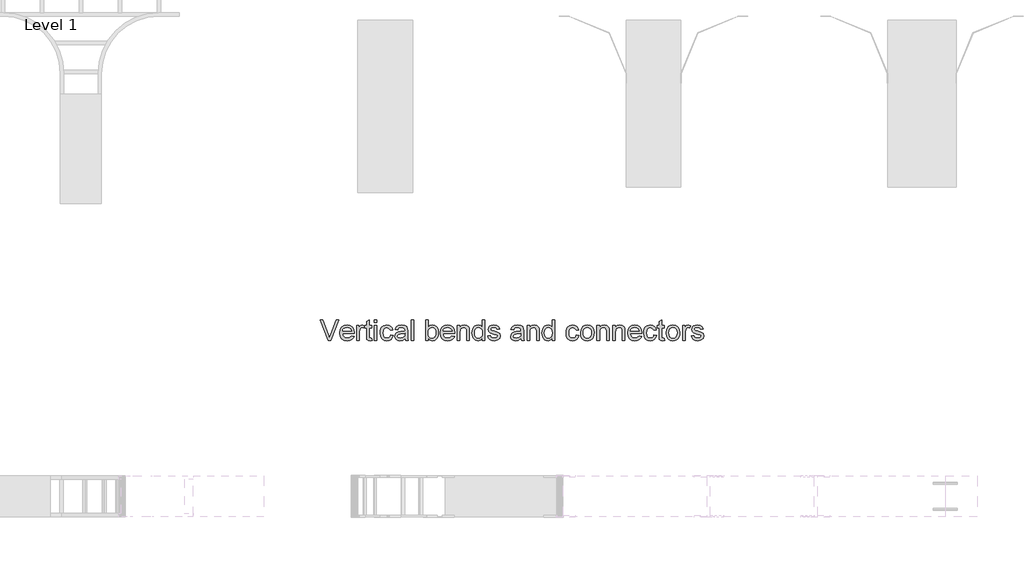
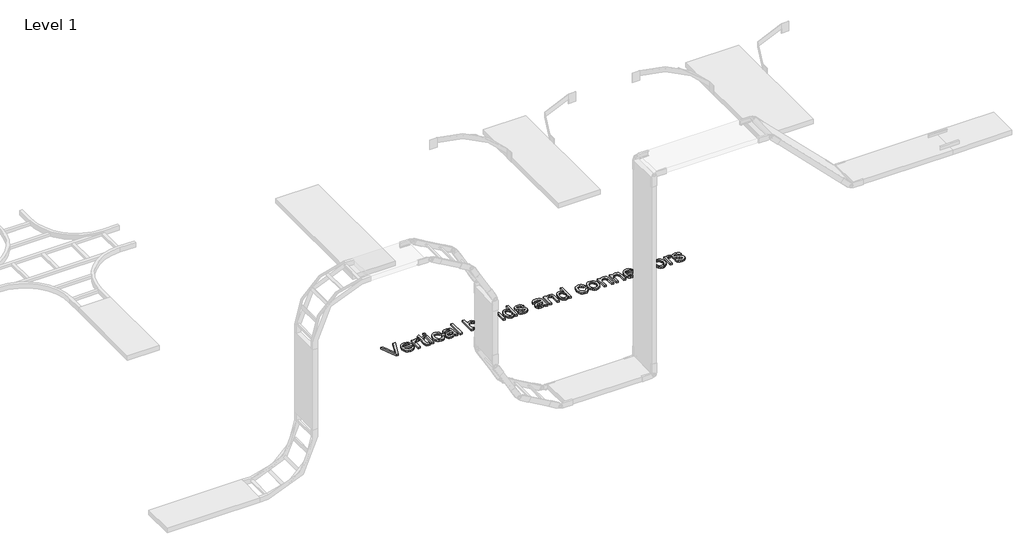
# One storey, part 46 of 106: 1 proxy.
"""IFC4 building model written with IfcOpenShell, lengths in millimetres."""

from ifc_helpers import new_model, si_unit, origin, origin_with_axes, place, context, project, spatial, polyline, outline, extrude, element, save

model = new_model("IFC4")

# Units and contexts
model_context = context("Model", 3, world=origin())
ifc_project = project(units=[si_unit("LENGTHUNIT", "METRE", prefix="MILLI")], contexts=[model_context])

# Site, building, storey
site = spatial("IfcSite", under=ifc_project)
building = spatial("IfcBuilding", under=site)
storey = spatial("IfcBuildingStorey", under=building, Name="Level 1", Elevation=0.0)

# Proxy
placement = place(None, origin())
element("IfcBuildingElementProxy", 1, Name="150mm Arial 2", ObjectType="150mm Arial 2", at=placement, inside=storey, context=model_context, shape_type="SweptSolid", body=[
    extrude(outline(polyline([(54472.9663468, 25747.8476348), (54413.0015816, 25898.5321), (54433.1615149, 25898.5321), (54473.2974406, 25789.9701232), (54481.4276327, 25765.5059705), (54489.4474602, 25789.9701232), (54529.6937505, 25898.5321), (54549.8536838, 25898.5321), (54492.4273044, 25747.8476348), (54472.9663468, 25747.8476348)])), origin_with_axes(), (0.0, 0.0, 1.0), 15.0),
    extrude(outline(polyline([(54642.4863702, 25780.8098615), (54660.9540463, 25778.4554168), (54654.2999808, 25764.5402803), (54643.6819867, 25754.1384169), (54629.3391874, 25747.6544967), (54611.5107062, 25745.49319), (54589.4101953, 25749.2225937), (54572.4048501, 25760.4108049), (54561.5615283, 25778.3312566), (54557.9470877, 25802.2573819), (54561.5983165, 25826.988249), (54572.5520029, 25845.4835163), (54589.3274219, 25857.0166168), (54610.4438484, 25860.8609837), (54630.9026859, 25857.0258139), (54647.250442, 25845.5203045), (54657.9696037, 25827.0618254), (54661.5426575, 25802.3677465), (54661.4322929, 25797.2909749), (54576.7826459, 25797.2909749), (54580.043, 25783.1918975), (54587.6167706, 25772.8268223), (54598.5474644, 25766.4532667), (54611.8785882, 25764.3287482), (54630.3462644, 25768.2650855), (54642.4863702, 25780.8098615)]), holes=[polyline([(54576.7826459, 25816.1265331), (54642.7070994, 25816.1265331), (54640.1595166, 25826.0777411), (54635.1655185, 25833.1962577), (54624.1842409, 25839.8181336), (54610.370272, 25842.0254255), (54597.6737447, 25840.2641905), (54587.1753122, 25834.9804853), (54579.8774531, 25826.7445272), (54576.7826459, 25816.1265331)])]), origin_with_axes(), (0.0, 0.0, 1.0), 15.0),
    extrude(outline(polyline([(54791.0371198, 25763.556196), (54793.3915646, 25747.2958118), (54779.3016842, 25745.49319), (54763.5195466, 25748.620187), (54755.6468719, 25756.8239555), (54753.3660035, 25778.1978994), (54753.3660035, 25839.6709808), (54739.2393349, 25839.6709808), (54739.2393349, 25855.0484482), (54739.2393349, 25858.5065389), (54753.3660035, 25858.5065389), (54753.3660035, 25885.3987128), (54772.2015617, 25896.4719608), (54772.2015617, 25858.5065389), (54791.0371198, 25858.5065389), (54791.0371198, 25839.6709808), (54772.2015617, 25839.6709808), (54772.2015617, 25778.7497224), (54773.1948431, 25769.0376377), (54776.4138105, 25765.597941), (54782.8333514, 25764.3287482), (54791.0371198, 25763.556196)])), origin_with_axes(), (0.0, 0.0, 1.0), 15.0),
    extrude(outline(polyline([(54680.3782157, 25747.8476348), (54680.3782157, 25858.5065389), (54696.8593291, 25858.5065389), (54696.8593291, 25842.1357901), (54708.5579765, 25857.2189519), (54720.3302004, 25860.8609837), (54739.2393349, 25855.0484482), (54732.9485528, 25838.1626646), (54719.704801, 25842.0254255), (54709.0546172, 25838.3098174), (54702.2671944, 25828.0091215), (54699.2137738, 25806.0097782), (54699.2137738, 25747.8476348), (54680.3782157, 25747.8476348)])), origin_with_axes(), (0.0, 0.0, 1.0), 15.0),
    extrude(outline(polyline([(54809.872678, 25879.6965419), (54809.872678, 25898.5321), (54828.7082362, 25898.5321), (54828.7082362, 25879.6965419), (54809.872678, 25879.6965419)])), origin_with_axes(), (0.0, 0.0, 1.0), 15.0),
    extrude(outline(polyline([(54809.872678, 25747.8476348), (54809.872678, 25858.5065389), (54828.7082362, 25858.5065389), (54828.7082362, 25747.8476348), (54809.872678, 25747.8476348)])), origin_with_axes(), (0.0, 0.0, 1.0), 15.0),
    extrude(outline(polyline([(54927.5949165, 25787.8731959), (54946.4304746, 25785.5187511), (54941.1789591, 25768.7663247), (54931.3105246, 25756.1065856), (54917.7540731, 25748.1465389), (54901.4385066, 25745.49319), (54881.4027334, 25749.1950026), (54865.735559, 25760.3004403), (54855.6234026, 25778.3220596), (54852.2526838, 25802.7724167), (54853.6920221, 25819.5340401), (54858.0100371, 25834.0607803), (54865.2757065, 25845.7916175), (54875.5580082, 25854.1655314), (54887.8590624, 25859.1871206), (54901.1809892, 25860.8609837), (54917.096484, 25858.5617212), (54929.8206025, 25851.6639338), (54938.9486745, 25840.5355035), (54944.0760298, 25825.5443122), (54925.2404717, 25823.1898674), (54916.5032743, 25837.2981419), (54901.328142, 25842.0254255), (54889.1558465, 25839.6985719), (54879.4943456, 25832.7180111), (54873.1897679, 25820.7066639), (54871.088242, 25803.2874515), (54873.1437826, 25785.6337142), (54879.3104046, 25773.5809803), (54888.7971615, 25766.6418062), (54900.8131072, 25764.3287482), (54910.5665786, 25765.772685), (54918.5634135, 25770.1044955), (54924.3805475, 25777.4345442), (54927.5949165, 25787.8731959)])), origin_with_axes(), (0.0, 0.0, 1.0), 15.0),
    extrude(outline(polyline([(55033.5449311, 25761.9743034), (55015.27959, 25749.2087982), (54995.1012626, 25745.49319), (54979.3605117, 25747.7280731), (54967.7492362, 25754.4327225), (54960.5893329, 25764.6138567), (54958.2026985, 25777.2781944), (54961.807942, 25792.1774152), (54971.2809034, 25802.9931459), (54984.4694729, 25809.1735634), (55000.7666453, 25812.0062547), (55033.4345665, 25818.4809779), (55033.5449311, 25822.6748326), (55032.248147, 25831.0809362), (55028.3577949, 25836.580772), (55019.6573857, 25840.6642622), (55007.535674, 25842.0254255), (54988.4793867, 25838.4017879), (54979.3927014, 25825.5443122), (54960.5571432, 25827.8987569), (54968.7057294, 25846.2928567), (54985.1132664, 25857.0717991), (55009.9636952, 25860.8609837), (55032.790773, 25857.5132575), (55045.6850369, 25849.107154), (55051.4607842, 25836.3232546), (55052.3804892, 25819.8421412), (55052.3804892, 25796.4080581), (55053.3369824, 25763.6849547), (55057.0893788, 25747.8476348), (55038.2538206, 25747.8476348), (55033.5449311, 25761.9743034)]), holes=[polyline([(55033.5449311, 25799.6454197), (55003.1578783, 25793.8696724), (54986.9526764, 25790.8162518), (54979.6134306, 25785.8498449), (54977.0382566, 25778.6025696), (54982.648457, 25768.4122383), (54999.1111763, 25764.3287482), (55018.1674637, 25768.8353026), (55030.4547223, 25779.7430038), (55033.4345665, 25794.3111308), (55033.5449311, 25799.6454197)])]), origin_with_axes(), (0.0, 0.0, 1.0), 15.0),
    extrude(outline(polyline([(55078.2793817, 25747.8476348), (55078.2793817, 25898.5321), (55097.1149398, 25898.5321), (55097.1149398, 25747.8476348), (55078.2793817, 25747.8476348)])), origin_with_axes(), (0.0, 0.0, 1.0), 15.0),
    extrude(outline(polyline([(55203.0649544, 25747.8476348), (55184.2293963, 25747.8476348), (55184.2293963, 25898.5321), (55203.0649544, 25898.5321), (55203.0649544, 25842.6508249), (55216.253524, 25856.308444), (55232.6426669, 25860.8609837), (55251.5150132, 25856.7590995), (55266.1567166, 25845.2259989), (55275.1514314, 25827.2917516), (55278.4071871, 25804.8325558), (55275.0364683, 25779.6878215), (55264.9243119, 25760.981022), (55250.084872, 25749.365148), (55232.5323023, 25745.49319), (55215.7844744, 25750.4871881), (55203.0649544, 25765.4691823), (55203.0649544, 25747.8476348)]), holes=[polyline([(55203.0649544, 25803.949639), (55204.3525414, 25788.2410779), (55208.2153024, 25777.6092882), (55218.0837369, 25767.6488832), (55230.9136215, 25764.3287482), (55241.7845344, 25766.7751634), (55251.0735548, 25774.1144092), (55257.4471104, 25786.3005003), (55259.5716289, 25803.2874515), (55257.5344824, 25820.5227229), (55251.4230427, 25832.5708583), (55242.4237294, 25839.6617837), (55231.7229619, 25842.0254255), (55220.8520489, 25839.5790103), (55211.5630285, 25832.2397645), (55205.189473, 25820.2744026), (55203.0649544, 25803.949639)])]), origin_with_axes(), (0.0, 0.0, 1.0), 15.0),
    extrude(outline(polyline([(55377.0731382, 25780.8098615), (55395.5408143, 25778.4554168), (55388.8867487, 25764.5402803), (55378.2687546, 25754.1384169), (55363.9259554, 25747.6544967), (55346.0974742, 25745.49319), (55323.9969633, 25749.2225937), (55306.9916181, 25760.4108049), (55296.1482963, 25778.3312566), (55292.5338557, 25802.2573819), (55296.1850845, 25826.988249), (55307.1387709, 25845.4835163), (55323.9141899, 25857.0166168), (55345.0306164, 25860.8609837), (55365.4894538, 25857.0258139), (55381.83721, 25845.5203045), (55392.5563716, 25827.0618254), (55396.1294255, 25802.3677465), (55396.0190609, 25797.2909749), (55311.3694138, 25797.2909749), (55314.629768, 25783.1918975), (55322.2035386, 25772.8268223), (55333.1342324, 25766.4532667), (55346.4653562, 25764.3287482), (55364.9330323, 25768.2650855), (55377.0731382, 25780.8098615)]), holes=[polyline([(55311.3694138, 25816.1265331), (55377.2938674, 25816.1265331), (55374.7462845, 25826.0777411), (55369.7522865, 25833.1962577), (55358.7710089, 25839.8181336), (55344.95704, 25842.0254255), (55332.2605126, 25840.2641905), (55321.7620802, 25834.9804853), (55314.4642211, 25826.7445272), (55311.3694138, 25816.1265331)])]), origin_with_axes(), (0.0, 0.0, 1.0), 15.0),
    extrude(outline(polyline([(55414.9649837, 25747.8476348), (55414.9649837, 25858.5065389), (55433.8005418, 25858.5065389), (55433.8005418, 25843.0554951), (55448.2031219, 25856.4096116), (55467.8664146, 25860.8609837), (55485.653509, 25857.2741342), (55497.7936149, 25847.8563552), (55503.4406035, 25834.0055981), (55504.4338849, 25815.7954393), (55504.4338849, 25747.8476348), (55485.5983267, 25747.8476348), (55485.5983267, 25813.2570535), (55483.427823, 25829.9221079), (55475.7574834, 25838.7328817), (55462.8264312, 25842.0254255), (55451.7945699, 25840.1768185), (55442.3905864, 25834.6309974), (55435.948053, 25823.9164343), (55433.8005418, 25806.5616012), (55433.8005418, 25747.8476348), (55414.9649837, 25747.8476348)])), origin_with_axes(), (0.0, 0.0, 1.0), 15.0),
    extrude(outline(polyline([(55598.6116757, 25747.8476348), (55598.6116757, 25765.6163351), (55586.1496731, 25750.5239763), (55568.9235986, 25745.49319), (55556.7467046, 25747.3142059), (55545.5998802, 25752.7772535), (55536.163707, 25761.5006553), (55529.1187668, 25773.1027337), (55524.731774, 25787.1144392), (55523.269443, 25803.0667223), (55528.6589143, 25833.0491049), (55535.3911548, 25844.9408904), (55544.8089339, 25853.6872848), (55556.1994801, 25859.067559), (55568.8500222, 25860.8609837), (55586.2140524, 25855.7290299), (55598.6116757, 25842.3933075), (55598.6116757, 25898.5321), (55617.4472338, 25898.5321), (55617.4472338, 25747.8476348), (55598.6116757, 25747.8476348)]), holes=[polyline([(55542.1050012, 25803.1402987), (55544.2295197, 25786.1027638), (55550.6030753, 25773.9856505), (55559.8645045, 25766.7429738), (55570.652644, 25764.3287482), (55581.436185, 25766.6326092), (55590.4630895, 25773.5441921), (55596.5745291, 25785.1922558), (55598.6116757, 25801.7055589), (55596.5377409, 25819.7593678), (55590.3159367, 25832.2765527), (55581.059106, 25839.5882073), (55569.8800918, 25842.0254255), (55558.9815877, 25839.6847764), (55550.0512523, 25832.6628288), (55544.091564, 25820.6008979), (55542.1050012, 25803.1402987)])]), origin_with_axes(), (0.0, 0.0, 1.0), 15.0),
    extrude(outline(polyline([(55638.6372367, 25780.8098615), (55657.4727949, 25783.1643063), (55660.443442, 25775.1076906), (55666.1915982, 25769.1847905), (55686.1675905, 25764.3287482), (55705.3710307, 25768.7801203), (55711.6250246, 25779.227969), (55710.052329, 25784.028829), (55705.3342425, 25787.6892549), (55685.9468613, 25793.060332), (55657.5831595, 25802.275776), (55645.2039303, 25813.0363243), (55640.9916815, 25828.2298507), (55644.3761959, 25842.2645488), (55653.6100339, 25852.988309), (55665.5845929, 25858.5617212), (55681.7897948, 25860.8609837), (55704.7088431, 25857.1637696), (55719.2769701, 25847.1573794), (55725.7516932, 25830.2532017), (55706.916135, 25827.8987569), (55699.8344066, 25838.2914233), (55683.2613227, 25842.0254255), (55665.235105, 25838.4569702), (55659.8272397, 25830.1428371), (55662.0713198, 25824.6613954), (55669.0978659, 25820.5043288), (55685.3214619, 25816.4944151), (55712.9677939, 25807.628459), (55725.8068755, 25797.5852805), (55730.4605827, 25781.2145317), (55724.9975351, 25763.188314), (55709.2337916, 25750.1101091), (55685.9100731, 25745.49319), (55666.9181651, 25747.7188761), (55653.0582109, 25754.3959343), (55643.8059788, 25765.4507882), (55638.6372367, 25780.8098615)])), origin_with_axes(), (0.0, 0.0, 1.0), 15.0),
    extrude(outline(polyline([(55881.145048, 25761.9743034), (55862.8797069, 25749.2087982), (55842.7013795, 25745.49319), (55826.9606286, 25747.7280731), (55815.3493531, 25754.4327225), (55808.1894498, 25764.6138567), (55805.8028153, 25777.2781944), (55809.4080589, 25792.1774152), (55818.8810203, 25802.9931459), (55832.0695898, 25809.1735634), (55848.3667622, 25812.0062547), (55881.0346834, 25818.4809779), (55881.145048, 25822.6748326), (55879.8482639, 25831.0809362), (55875.9579118, 25836.580772), (55867.2575026, 25840.6642622), (55855.1357909, 25842.0254255), (55836.0795035, 25838.4017879), (55826.9928183, 25825.5443122), (55808.1572601, 25827.8987569), (55816.3058463, 25846.2928567), (55832.7133833, 25857.0717991), (55857.5638121, 25860.8609837), (55880.3908899, 25857.5132575), (55893.2851538, 25849.107154), (55899.0609011, 25836.3232546), (55899.9806061, 25819.8421412), (55899.9806061, 25796.4080581), (55900.9370993, 25763.6849547), (55904.6894956, 25747.8476348), (55885.8539375, 25747.8476348), (55881.145048, 25761.9743034)]), holes=[polyline([(55881.145048, 25799.6454197), (55850.7579952, 25793.8696724), (55834.5527933, 25790.8162518), (55827.2135475, 25785.8498449), (55824.6383735, 25778.6025696), (55830.2485739, 25768.4122383), (55846.7112932, 25764.3287482), (55865.7675806, 25768.8353026), (55878.0548392, 25779.7430038), (55881.0346834, 25794.3111308), (55881.145048, 25799.6454197)])]), origin_with_axes(), (0.0, 0.0, 1.0), 15.0),
    extrude(outline(polyline([(55925.8794986, 25747.8476348), (55925.8794986, 25858.5065389), (55944.7150567, 25858.5065389), (55944.7150567, 25843.0554951), (55959.1176368, 25856.4096116), (55978.7809295, 25860.8609837), (55996.5680239, 25857.2741342), (56008.7081298, 25847.8563552), (56014.3551184, 25834.0055981), (56015.3483998, 25815.7954393), (56015.3483998, 25747.8476348), (55996.5128416, 25747.8476348), (55996.5128416, 25813.2570535), (55994.3423379, 25829.9221079), (55986.6719983, 25838.7328817), (55973.7409461, 25842.0254255), (55962.7090848, 25840.1768185), (55953.3051013, 25834.6309974), (55946.8625679, 25823.9164343), (55944.7150567, 25806.5616012), (55944.7150567, 25747.8476348), (55925.8794986, 25747.8476348)])), origin_with_axes(), (0.0, 0.0, 1.0), 15.0),
    extrude(outline(polyline([(56109.5261906, 25747.8476348), (56109.5261906, 25765.6163351), (56097.064188, 25750.5239763), (56079.8381135, 25745.49319), (56067.6612195, 25747.3142059), (56056.5143951, 25752.7772535), (56047.0782219, 25761.5006553), (56040.0332817, 25773.1027337), (56035.6462889, 25787.1144392), (56034.1839579, 25803.0667223), (56039.5734292, 25833.0491049), (56046.3056697, 25844.9408904), (56055.7234488, 25853.6872848), (56067.113995, 25859.067559), (56079.7645371, 25860.8609837), (56097.1285673, 25855.7290299), (56109.5261906, 25842.3933075), (56109.5261906, 25898.5321), (56128.3617487, 25898.5321), (56128.3617487, 25747.8476348), (56109.5261906, 25747.8476348)]), holes=[polyline([(56053.0195161, 25803.1402987), (56055.1440346, 25786.1027638), (56061.5175902, 25773.9856505), (56070.7790194, 25766.7429738), (56081.5671589, 25764.3287482), (56092.3506999, 25766.6326092), (56101.3776044, 25773.5441921), (56107.489044, 25785.1922558), (56109.5261906, 25801.7055589), (56107.4522558, 25819.7593678), (56101.2304516, 25832.2765527), (56091.9736209, 25839.5882073), (56080.7946067, 25842.0254255), (56069.8961026, 25839.6847764), (56060.9657672, 25832.6628288), (56055.0060789, 25820.6008979), (56053.0195161, 25803.1402987)])]), origin_with_axes(), (0.0, 0.0, 1.0), 15.0),
    extrude(outline(polyline([(56286.1095482, 25787.8731959), (56304.9451064, 25785.5187511), (56299.6935909, 25768.7663247), (56289.8251564, 25756.1065856), (56276.2687049, 25748.1465389), (56259.9531384, 25745.49319), (56239.9173652, 25749.1950026), (56224.2501908, 25760.3004403), (56214.1380344, 25778.3220596), (56210.7673156, 25802.7724167), (56212.2066539, 25819.5340401), (56216.5246689, 25834.0607803), (56223.7903383, 25845.7916175), (56234.07264, 25854.1655314), (56246.3736942, 25859.1871206), (56259.695621, 25860.8609837), (56275.6111158, 25858.5617212), (56288.3352343, 25851.6639338), (56297.4633063, 25840.5355035), (56302.5906616, 25825.5443122), (56283.7551035, 25823.1898674), (56275.0179061, 25837.2981419), (56259.8427738, 25842.0254255), (56247.6704783, 25839.6985719), (56238.0089774, 25832.7180111), (56231.7043997, 25820.7066639), (56229.6028738, 25803.2874515), (56231.6584144, 25785.6337142), (56237.8250364, 25773.5809803), (56247.3117933, 25766.6418062), (56259.327739, 25764.3287482), (56269.0812104, 25765.772685), (56277.0780453, 25770.1044955), (56282.8951793, 25777.4345442), (56286.1095482, 25787.8731959)])), origin_with_axes(), (0.0, 0.0, 1.0), 15.0),
    extrude(outline(polyline([(56316.7173302, 25803.1770869), (56320.7916233, 25829.8577286), (56333.0145026, 25848.6105133), (56348.1160585, 25857.7983661), (56366.1974586, 25860.8609837), (56385.9849114, 25857.13158), (56401.7900416, 25845.9433688), (56412.1505183, 25828.179267), (56415.6040105, 25804.7221912), (56414.0773003, 25785.693495), (56409.4971694, 25771.2081415), (56401.9969752, 25760.3602211), (56391.710075, 25752.2438246), (56379.4917942, 25747.1808487), (56366.1974586, 25745.49319), (56346.1708825, 25749.2087982), (56330.3841464, 25760.3556226), (56320.1340343, 25778.492205), (56316.7173302, 25803.1770869)]), holes=[polyline([(56335.5528884, 25803.2138751), (56337.7325892, 25786.1671431), (56344.2716917, 25774.0224387), (56354.1125351, 25766.7521708), (56366.1974586, 25764.3287482), (56378.2271998, 25766.7659664), (56388.0496491, 25774.077621), (56394.5887516, 25786.3832738), (56396.7684524, 25803.8024862), (56394.574956, 25820.3525775), (56387.9944668, 25832.331735), (56378.158222, 25839.6020029), (56366.1974586, 25842.0254255), (56354.1125351, 25839.6112), (56344.2716917, 25832.3685232), (56337.7325892, 25820.25141), (56335.5528884, 25803.2138751)])]), origin_with_axes(), (0.0, 0.0, 1.0), 15.0),
    extrude(outline(polyline([(56436.7940135, 25747.8476348), (56436.7940135, 25858.5065389), (56455.6295716, 25858.5065389), (56455.6295716, 25843.0554951), (56470.0321517, 25856.4096116), (56489.6954444, 25860.8609837), (56507.4825388, 25857.2741342), (56519.6226447, 25847.8563552), (56525.2696333, 25834.0055981), (56526.2629147, 25815.7954393), (56526.2629147, 25747.8476348), (56507.4273565, 25747.8476348), (56507.4273565, 25813.2570535), (56505.2568528, 25829.9221079), (56497.5865132, 25838.7328817), (56484.655461, 25842.0254255), (56473.6235997, 25840.1768185), (56464.2196162, 25834.6309974), (56457.7770828, 25823.9164343), (56455.6295716, 25806.5616012), (56455.6295716, 25747.8476348), (56436.7940135, 25747.8476348)])), origin_with_axes(), (0.0, 0.0, 1.0), 15.0),
    extrude(outline(polyline([(56552.1618072, 25747.8476348), (56552.1618072, 25858.5065389), (56570.9973653, 25858.5065389), (56570.9973653, 25843.0554951), (56585.3999454, 25856.4096116), (56605.0632381, 25860.8609837), (56622.8503325, 25857.2741342), (56634.9904384, 25847.8563552), (56640.637427, 25834.0055981), (56641.6307084, 25815.7954393), (56641.6307084, 25747.8476348), (56622.7951502, 25747.8476348), (56622.7951502, 25813.2570535), (56620.6246465, 25829.9221079), (56612.9543069, 25838.7328817), (56600.0232547, 25842.0254255), (56588.9913934, 25840.1768185), (56579.5874099, 25834.6309974), (56573.1448765, 25823.9164343), (56570.9973653, 25806.5616012), (56570.9973653, 25747.8476348), (56552.1618072, 25747.8476348)])), origin_with_axes(), (0.0, 0.0, 1.0), 15.0),
    extrude(outline(polyline([(56745.005549, 25780.8098615), (56763.4732252, 25778.4554168), (56756.8191596, 25764.5402803), (56746.2011655, 25754.1384169), (56731.8583662, 25747.6544967), (56714.029885, 25745.49319), (56691.9293742, 25749.2225937), (56674.9240289, 25760.4108049), (56664.0807071, 25778.3312566), (56660.4662665, 25802.2573819), (56664.1174953, 25826.988249), (56675.0711817, 25845.4835163), (56691.8466007, 25857.0166168), (56712.9630272, 25860.8609837), (56733.4218647, 25857.0258139), (56749.7696209, 25845.5203045), (56760.4887825, 25827.0618254), (56764.0618364, 25802.3677465), (56763.9514718, 25797.2909749), (56679.3018247, 25797.2909749), (56682.5621789, 25783.1918975), (56690.1359494, 25772.8268223), (56701.0666432, 25766.4532667), (56714.397767, 25764.3287482), (56732.8654432, 25768.2650855), (56745.005549, 25780.8098615)]), holes=[polyline([(56679.3018247, 25816.1265331), (56745.2262782, 25816.1265331), (56742.6786954, 25826.0777411), (56737.6846973, 25833.1962577), (56726.7034198, 25839.8181336), (56712.8894508, 25842.0254255), (56700.1929235, 25840.2641905), (56689.6944911, 25834.9804853), (56682.396632, 25826.7445272), (56679.3018247, 25816.1265331)])]), origin_with_axes(), (0.0, 0.0, 1.0), 15.0),
    extrude(outline(polyline([(56853.5307376, 25787.8731959), (56872.3662958, 25785.5187511), (56867.1147803, 25768.7663247), (56857.2463458, 25756.1065856), (56843.6898942, 25748.1465389), (56827.3743277, 25745.49319), (56807.3385546, 25749.1950026), (56791.6713801, 25760.3004403), (56781.5592238, 25778.3220596), (56778.188505, 25802.7724167), (56779.6278433, 25819.5340401), (56783.9458582, 25834.0607803), (56791.2115276, 25845.7916175), (56801.4938294, 25854.1655314), (56813.7948836, 25859.1871206), (56827.1168103, 25860.8609837), (56843.0323052, 25858.5617212), (56855.7564237, 25851.6639338), (56864.8844957, 25840.5355035), (56870.011851, 25825.5443122), (56851.1762928, 25823.1898674), (56842.4390954, 25837.2981419), (56827.2639631, 25842.0254255), (56815.0916676, 25839.6985719), (56805.4301667, 25832.7180111), (56799.125589, 25820.7066639), (56797.0240631, 25803.2874515), (56799.0796038, 25785.6337142), (56805.2462257, 25773.5809803), (56814.7329827, 25766.6418062), (56826.7489284, 25764.3287482), (56836.5023998, 25765.772685), (56844.4992346, 25770.1044955), (56850.3163687, 25777.4345442), (56853.5307376, 25787.8731959)])), origin_with_axes(), (0.0, 0.0, 1.0), 15.0),
    extrude(outline(polyline([(56928.8729702, 25763.556196), (56931.227415, 25747.2958118), (56917.1375346, 25745.49319), (56901.355397, 25748.620187), (56893.4827223, 25756.8239555), (56891.2018539, 25778.1978994), (56891.2018539, 25839.6709808), (56877.0751853, 25839.6709808), (56877.0751853, 25858.5065389), (56891.2018539, 25858.5065389), (56891.2018539, 25885.3987128), (56910.0374121, 25896.4719608), (56910.0374121, 25858.5065389), (56928.8729702, 25858.5065389), (56928.8729702, 25839.6709808), (56910.0374121, 25839.6709808), (56910.0374121, 25778.7497224), (56911.0306934, 25769.0376377), (56914.2496609, 25765.597941), (56920.6692017, 25764.3287482), (56928.8729702, 25763.556196)])), origin_with_axes(), (0.0, 0.0, 1.0), 15.0),
    extrude(outline(polyline([(56942.9996388, 25803.1770869), (56947.0739319, 25829.8577286), (56959.2968112, 25848.6105133), (56974.3983671, 25857.7983661), (56992.4797672, 25860.8609837), (57012.26722, 25857.13158), (57028.0723502, 25845.9433688), (57038.4328269, 25828.179267), (57041.8863191, 25804.7221912), (57040.3596089, 25785.693495), (57035.779478, 25771.2081415), (57028.2792838, 25760.3602211), (57017.9923835, 25752.2438246), (57005.7741028, 25747.1808487), (56992.4797672, 25745.49319), (56972.4531911, 25749.2087982), (56956.666455, 25760.3556226), (56946.4163429, 25778.492205), (56942.9996388, 25803.1770869)]), holes=[polyline([(56961.835197, 25803.2138751), (56964.0148978, 25786.1671431), (56970.5540003, 25774.0224387), (56980.3948436, 25766.7521708), (56992.4797672, 25764.3287482), (57004.5095084, 25766.7659664), (57014.3319577, 25774.077621), (57020.8710602, 25786.3832738), (57023.050761, 25803.8024862), (57020.8572646, 25820.3525775), (57014.2767754, 25832.331735), (57004.4405305, 25839.6020029), (56992.4797672, 25842.0254255), (56980.3948436, 25839.6112), (56970.5540003, 25832.3685232), (56964.0148978, 25820.25141), (56961.835197, 25803.2138751)])]), origin_with_axes(), (0.0, 0.0, 1.0), 15.0),
    extrude(outline(polyline([(57063.0763221, 25747.8476348), (57063.0763221, 25858.5065389), (57079.5574354, 25858.5065389), (57079.5574354, 25842.1357901), (57091.2560829, 25857.2189519), (57103.0283067, 25860.8609837), (57121.9374413, 25855.0484482), (57115.6466592, 25838.1626646), (57102.4029073, 25842.0254255), (57091.7527236, 25838.3098174), (57084.9653008, 25828.0091215), (57081.9118802, 25806.0097782), (57081.9118802, 25747.8476348), (57063.0763221, 25747.8476348)])), origin_with_axes(), (0.0, 0.0, 1.0), 15.0),
    extrude(outline(polyline([(57126.6463308, 25780.8098615), (57145.481889, 25783.1643063), (57148.4525361, 25775.1076906), (57154.2006923, 25769.1847905), (57174.1766846, 25764.3287482), (57193.3801247, 25768.7801203), (57199.6341187, 25779.227969), (57198.0614231, 25784.028829), (57193.3433365, 25787.6892549), (57173.9559554, 25793.060332), (57145.5922536, 25802.275776), (57133.2130244, 25813.0363243), (57129.0007756, 25828.2298507), (57132.3852899, 25842.2645488), (57141.619128, 25852.988309), (57153.593687, 25858.5617212), (57169.7988889, 25860.8609837), (57192.7179372, 25857.1637696), (57207.2860642, 25847.1573794), (57213.7607873, 25830.2532017), (57194.9252291, 25827.8987569), (57187.8435007, 25838.2914233), (57171.2704168, 25842.0254255), (57153.2441991, 25838.4569702), (57147.8363337, 25830.1428371), (57150.0804139, 25824.6613954), (57157.10696, 25820.5043288), (57173.330556, 25816.4944151), (57200.9768879, 25807.628459), (57213.8159696, 25797.5852805), (57218.4696768, 25781.2145317), (57213.0066292, 25763.188314), (57197.2428857, 25750.1101091), (57173.9191672, 25745.49319), (57154.9272592, 25747.7188761), (57141.067305, 25754.3959343), (57131.8150729, 25765.4507882), (57126.6463308, 25780.8098615)])), origin_with_axes(), (0.0, 0.0, 1.0), 15.0),
])

save(model, "model.ifc")
